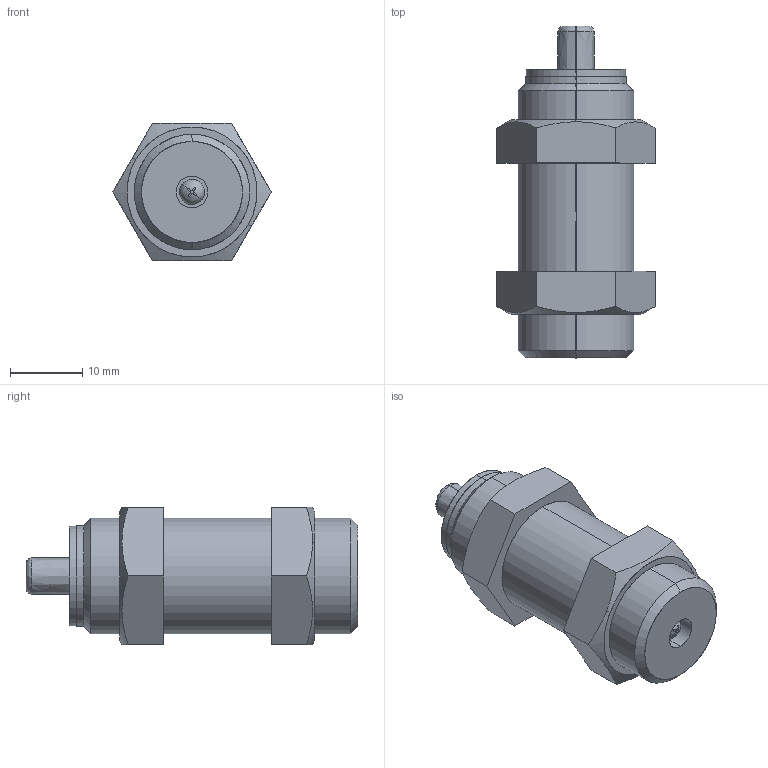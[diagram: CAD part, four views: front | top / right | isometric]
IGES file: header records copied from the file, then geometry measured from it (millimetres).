
Start section: SolidWorks IGES file using analytic representation for surfaces
Bounding box: 21.94 x 46 x 19 mm (x, y, z)
Surface area: 4599.2 mm2 (no closed solid volume)
Topology: 0 solids, 0 shells, 62 faces, 1084 edges, 1084 vertices
Faces by surface type: bspline 34, revolution 28
